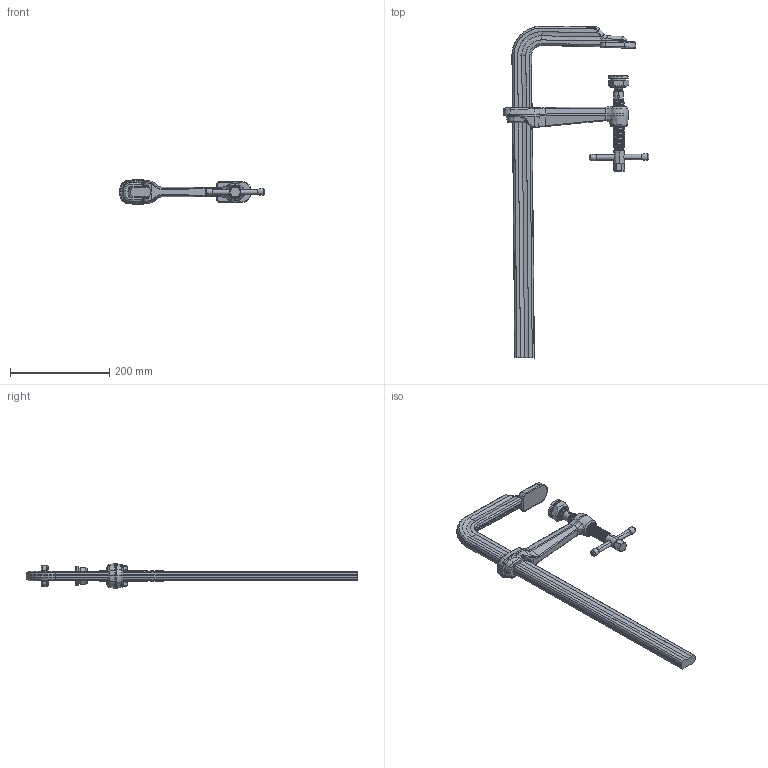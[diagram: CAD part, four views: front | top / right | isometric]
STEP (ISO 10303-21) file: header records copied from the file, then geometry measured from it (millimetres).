
FILE_DESCRIPTION( ( 'STEP AP214' ), '1' );
FILE_NAME( 'X:/CAD_Daten_Platzhalter/STB50M_4800-18/STB50M_4800_18.stp', ' ', ( ' ' ), ( ' ' ), 'PSStep 11.0', ' ', ' ' );
FILE_SCHEMA( ( 'AUTOMOTIVE_DESIGN { 1 0 10303 214 1 1 1 1 }' ) );
Length unit declared in the file: metre
Products named in the file (14): 1; 2; 3; 4; 5; 6; 7; 8; 9; 10; 11; 12; 13; 14
Bounding box: 293.84 x 669.65 x 50 mm (x, y, z)
Volume: 229074.2 mm3; surface area: 162331.2 mm2
Topology: 6 solids, 265 shells, 1196 faces, 4000 edges, 3073 vertices
Faces by surface type: bspline 1196
Entity records: 108576 total; most frequent: CARTESIAN_POINT 77394, ORIENTED_EDGE 6532, EDGE_CURVE 3959, B_SPLINE_CURVE_WITH_KNOTS 3385, VERTEX_POINT 3062, EDGE_LOOP 1241, STYLED_ITEM 1195, PRESENTATION_STYLE_ASSIGNMENT 1195
